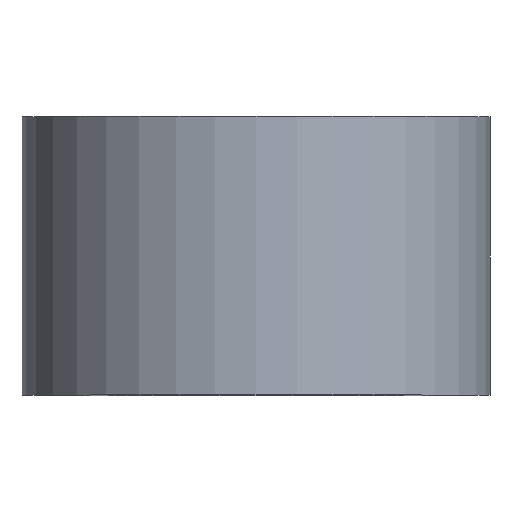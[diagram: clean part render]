
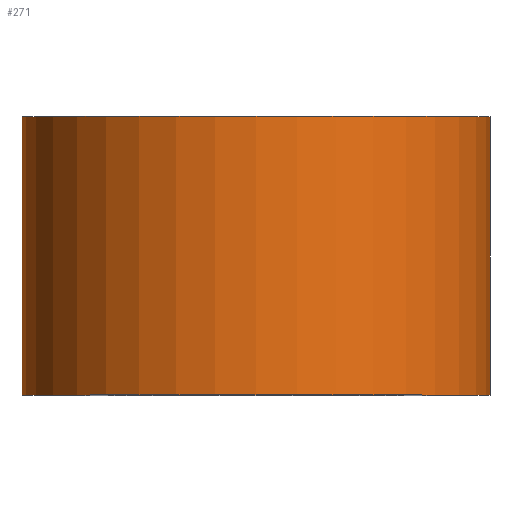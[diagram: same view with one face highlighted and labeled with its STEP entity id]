
A CAD part, top view. The second image highlights one B-rep face of the part: STEP entity #271.
In plain terms, the highlighted cylindrical face has radius 21 mm (diameter 42 mm), a partial arc.
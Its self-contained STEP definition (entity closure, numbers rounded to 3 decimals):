
#10 = DIRECTION ( 'NONE',  ( -1., 0., 0. ) ) ;
#14 = CARTESIAN_POINT ( 'NONE',  ( 21., 25., 0. ) ) ;
#23 = EDGE_CURVE ( 'NONE', #147, #113, #229, .T. ) ;
#35 = FACE_OUTER_BOUND ( 'NONE', #45, .T. ) ;
#36 = DIRECTION ( 'NONE',  ( -1., 0., 0. ) ) ;
#39 = VECTOR ( 'NONE', #151, 1000. ) ;
#40 = ORIENTED_EDGE ( 'NONE', *, *, #179, .T. ) ;
#41 = DIRECTION ( 'NONE',  ( 0., 1., 0. ) ) ;
#45 = EDGE_LOOP ( 'NONE', ( #40, #137, #118, #258 ) ) ;
#47 = CYLINDRICAL_SURFACE ( 'NONE', #232, 21. ) ;
#82 = CARTESIAN_POINT ( 'NONE',  ( -21., 0., 0. ) ) ;
#84 = DIRECTION ( 'NONE',  ( 0., 1., 0. ) ) ;
#94 = VERTEX_POINT ( 'NONE', #294 ) ;
#110 = DIRECTION ( 'NONE',  ( 0., 1., 0. ) ) ;
#111 = CARTESIAN_POINT ( 'NONE',  ( 0., 0., 0. ) ) ;
#113 = VERTEX_POINT ( 'NONE', #14 ) ;
#118 = ORIENTED_EDGE ( 'NONE', *, *, #193, .F. ) ;
#127 = EDGE_CURVE ( 'NONE', #165, #94, #240, .T. ) ;
#128 = VECTOR ( 'NONE', #214, 1000. ) ;
#131 = CARTESIAN_POINT ( 'NONE',  ( 0., 0., 0. ) ) ;
#132 = CIRCLE ( 'NONE', #239, 21. ) ;
#137 = ORIENTED_EDGE ( 'NONE', *, *, #23, .T. ) ;
#147 = VERTEX_POINT ( 'NONE', #243 ) ;
#149 = CARTESIAN_POINT ( 'NONE',  ( 21., 0., 0. ) ) ;
#151 = DIRECTION ( 'NONE',  ( 0., 1., 0. ) ) ;
#165 = VERTEX_POINT ( 'NONE', #195 ) ;
#179 = EDGE_CURVE ( 'NONE', #165, #147, #225, .T. ) ;
#193 = EDGE_CURVE ( 'NONE', #94, #113, #132, .T. ) ;
#195 = CARTESIAN_POINT ( 'NONE',  ( -21., 0., 0. ) ) ;
#198 = DIRECTION ( 'NONE',  ( -1., 0., 0. ) ) ;
#214 = DIRECTION ( 'NONE',  ( 0., 1., 0. ) ) ;
#218 = CARTESIAN_POINT ( 'NONE',  ( 0., 25., 0. ) ) ;
#225 = CIRCLE ( 'NONE', #227, 21. ) ;
#227 = AXIS2_PLACEMENT_3D ( 'NONE', #131, #41, #198 ) ;
#229 = LINE ( 'NONE', #149, #128 ) ;
#232 = AXIS2_PLACEMENT_3D ( 'NONE', #111, #84, #36 ) ;
#239 = AXIS2_PLACEMENT_3D ( 'NONE', #218, #110, #10 ) ;
#240 = LINE ( 'NONE', #82, #39 ) ;
#243 = CARTESIAN_POINT ( 'NONE',  ( 21., 0., 0. ) ) ;
#258 = ORIENTED_EDGE ( 'NONE', *, *, #127, .F. ) ;
#271 = ADVANCED_FACE ( 'NONE', ( #35 ), #47, .T. ) ;
#294 = CARTESIAN_POINT ( 'NONE',  ( -21., 25., 0. ) ) ;
